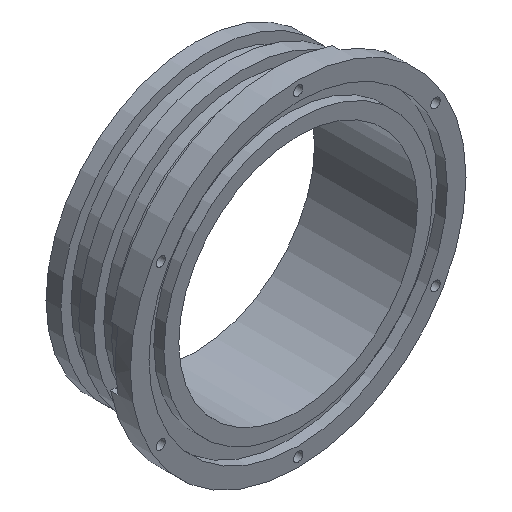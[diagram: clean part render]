
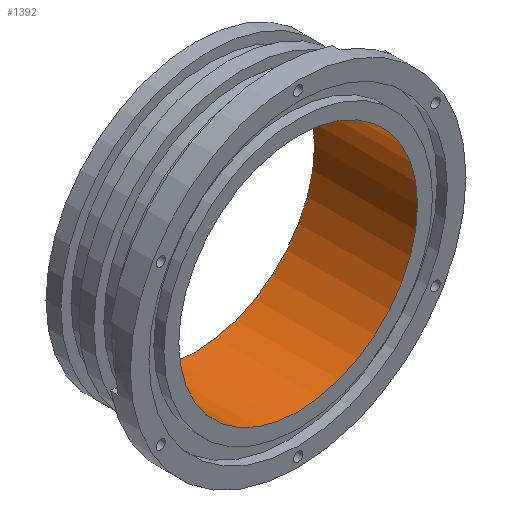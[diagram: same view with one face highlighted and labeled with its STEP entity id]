
A CAD part, isometric view. The second image highlights one B-rep face of the part: STEP entity #1392.
In plain terms, the highlighted cylindrical face has radius 32 mm (diameter 64 mm), a full revolution.
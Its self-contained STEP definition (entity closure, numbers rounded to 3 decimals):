
#63 = VERTEX_POINT ( 'NONE', #833 ) ;
#67 = DIRECTION ( 'NONE',  ( 0., 0., -1. ) ) ;
#84 = DIRECTION ( 'NONE',  ( 0., -1., 0. ) ) ;
#141 = EDGE_LOOP ( 'NONE', ( #647 ) ) ;
#193 = DIRECTION ( 'NONE',  ( 0., 0., 1. ) ) ;
#269 = AXIS2_PLACEMENT_3D ( 'NONE', #310, #761, #1342 ) ;
#310 = CARTESIAN_POINT ( 'NONE',  ( 0., 49.7, 0. ) ) ;
#324 = DIRECTION ( 'NONE',  ( 0., 1., 0. ) ) ;
#361 = VERTEX_POINT ( 'NONE', #1278 ) ;
#551 = CARTESIAN_POINT ( 'NONE',  ( 0., 0., 0. ) ) ;
#647 = ORIENTED_EDGE ( 'NONE', *, *, #1131, .T. ) ;
#661 = ORIENTED_EDGE ( 'NONE', *, *, #1421, .T. ) ;
#761 = DIRECTION ( 'NONE',  ( 0., -1., 0. ) ) ;
#771 = CYLINDRICAL_SURFACE ( 'NONE', #269, 32. ) ;
#833 = CARTESIAN_POINT ( 'NONE',  ( 0., 27.6, 32. ) ) ;
#881 = EDGE_LOOP ( 'NONE', ( #661 ) ) ;
#1072 = AXIS2_PLACEMENT_3D ( 'NONE', #1469, #324, #193 ) ;
#1077 = CIRCLE ( 'NONE', #1155, 32. ) ;
#1101 = CIRCLE ( 'NONE', #1072, 32. ) ;
#1131 = EDGE_CURVE ( 'NONE', #361, #361, #1077, .T. ) ;
#1155 = AXIS2_PLACEMENT_3D ( 'NONE', #551, #84, #67 ) ;
#1232 = FACE_OUTER_BOUND ( 'NONE', #141, .T. ) ;
#1278 = CARTESIAN_POINT ( 'NONE',  ( 0., 0., -32. ) ) ;
#1342 = DIRECTION ( 'NONE',  ( 0., 0., -1. ) ) ;
#1362 = FACE_OUTER_BOUND ( 'NONE', #881, .T. ) ;
#1392 = ADVANCED_FACE ( 'NONE', ( #1362, #1232 ), #771, .F. ) ;
#1421 = EDGE_CURVE ( 'NONE', #63, #63, #1101, .T. ) ;
#1469 = CARTESIAN_POINT ( 'NONE',  ( 0., 27.6, 0. ) ) ;
